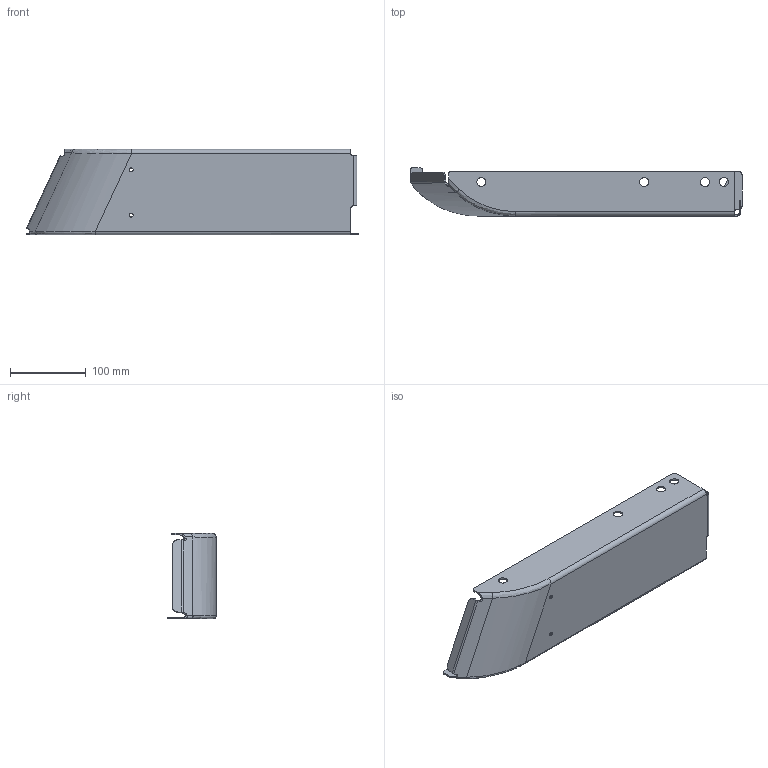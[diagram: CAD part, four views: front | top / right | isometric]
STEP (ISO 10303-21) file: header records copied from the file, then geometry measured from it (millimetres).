
FILE_DESCRIPTION(('CATIA V5 STEP Exchange'),'2;1');
FILE_NAME('E:\吉利商用车G3\07问题清单\底支架后移80mm对策方案-0721\新建文件夹\SHT0015279-D1.stp','2023-09-11T00:39:59+00:00',('none'),('none'),'CATIA Version 5 Release 20 GA (IN-10)','CATIA V5 STEP AP214','none');
FILE_SCHEMA(('AUTOMOTIVE_DESIGN { 1 0 10303 214 1 1 1 1 }'));
Length unit declared in the file: millimetre
Products named in the file (1): SHT0015279-D1
Bounding box: 439.33 x 64 x 112.7 mm (x, y, z)
Volume: 159555.7 mm3; surface area: 162552 mm2
Topology: 1 solids, 1 shells, 88 faces, 250 edges, 164 vertices
Faces by surface type: cylinder 49, plane 31, bspline 8
Entity records: 3646 total; most frequent: CARTESIAN_POINT 1489, ORIENTED_EDGE 500, DIRECTION 334, EDGE_CURVE 250, VERTEX_POINT 164, AXIS2_PLACEMENT_3D 137, VECTOR 123, LINE 123
